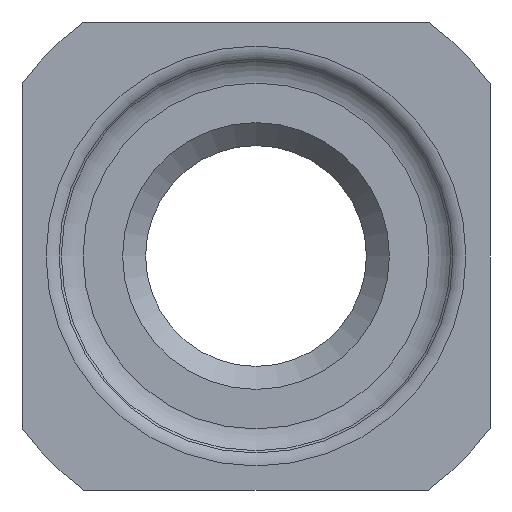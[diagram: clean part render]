
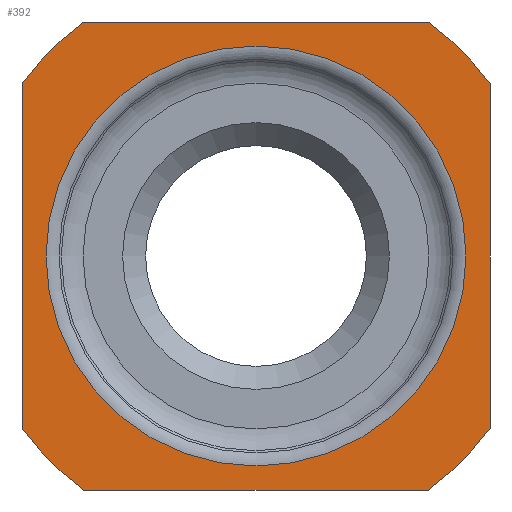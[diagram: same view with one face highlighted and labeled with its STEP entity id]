
A CAD part, front view. The second image highlights one B-rep face of the part: STEP entity #392.
In plain terms, the highlighted planar face has unit normal (0, -1, 0).
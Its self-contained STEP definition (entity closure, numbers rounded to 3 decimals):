
#27=FACE_BOUND('',#78,.T.);
#31=PLANE('',#454);
#51=FACE_OUTER_BOUND('',#77,.T.);
#77=EDGE_LOOP('',(#294,#295,#296,#297,#298,#299,#300,#301));
#78=EDGE_LOOP('',(#302));
#103=LINE('',#669,#121);
#104=LINE('',#673,#122);
#105=LINE('',#677,#123);
#106=LINE('',#680,#124);
#121=VECTOR('',#543,10.);
#122=VECTOR('',#546,10.);
#123=VECTOR('',#549,10.);
#124=VECTOR('',#552,10.);
#143=CIRCLE('',#448,5.707);
#148=CIRCLE('',#455,7.9);
#149=CIRCLE('',#456,7.9);
#150=CIRCLE('',#457,7.9);
#151=CIRCLE('',#458,7.9);
#175=VERTEX_POINT('',#653);
#179=VERTEX_POINT('',#665);
#180=VERTEX_POINT('',#666);
#181=VERTEX_POINT('',#668);
#182=VERTEX_POINT('',#670);
#183=VERTEX_POINT('',#672);
#184=VERTEX_POINT('',#674);
#185=VERTEX_POINT('',#676);
#186=VERTEX_POINT('',#678);
#216=EDGE_CURVE('',#175,#175,#143,.T.);
#222=EDGE_CURVE('',#179,#180,#148,.T.);
#223=EDGE_CURVE('',#180,#181,#103,.T.);
#224=EDGE_CURVE('',#181,#182,#149,.T.);
#225=EDGE_CURVE('',#182,#183,#104,.T.);
#226=EDGE_CURVE('',#183,#184,#150,.T.);
#227=EDGE_CURVE('',#184,#185,#105,.T.);
#228=EDGE_CURVE('',#185,#186,#151,.T.);
#229=EDGE_CURVE('',#186,#179,#106,.T.);
#294=ORIENTED_EDGE('',*,*,#222,.T.);
#295=ORIENTED_EDGE('',*,*,#223,.T.);
#296=ORIENTED_EDGE('',*,*,#224,.T.);
#297=ORIENTED_EDGE('',*,*,#225,.T.);
#298=ORIENTED_EDGE('',*,*,#226,.T.);
#299=ORIENTED_EDGE('',*,*,#227,.T.);
#300=ORIENTED_EDGE('',*,*,#228,.T.);
#301=ORIENTED_EDGE('',*,*,#229,.T.);
#302=ORIENTED_EDGE('',*,*,#216,.F.);
#392=ADVANCED_FACE('',(#51,#27),#31,.T.);
#448=AXIS2_PLACEMENT_3D('',#654,#526,#527);
#454=AXIS2_PLACEMENT_3D('',#664,#539,#540);
#455=AXIS2_PLACEMENT_3D('',#667,#541,#542);
#456=AXIS2_PLACEMENT_3D('',#671,#544,#545);
#457=AXIS2_PLACEMENT_3D('',#675,#547,#548);
#458=AXIS2_PLACEMENT_3D('',#679,#550,#551);
#526=DIRECTION('center_axis',(0.,-1.,0.));
#527=DIRECTION('ref_axis',(0.,0.,-1.));
#539=DIRECTION('center_axis',(0.,-1.,0.));
#540=DIRECTION('ref_axis',(0.,0.,-1.));
#541=DIRECTION('center_axis',(0.,-1.,0.));
#542=DIRECTION('ref_axis',(0.,0.,1.));
#543=DIRECTION('',(0.,0.,-1.));
#544=DIRECTION('center_axis',(0.,-1.,0.));
#545=DIRECTION('ref_axis',(0.,0.,1.));
#546=DIRECTION('',(1.,0.,0.));
#547=DIRECTION('center_axis',(0.,-1.,0.));
#548=DIRECTION('ref_axis',(0.,0.,1.));
#549=DIRECTION('',(0.,0.,1.));
#550=DIRECTION('center_axis',(0.,-1.,0.));
#551=DIRECTION('ref_axis',(0.,0.,1.));
#552=DIRECTION('',(-1.,0.,0.));
#653=CARTESIAN_POINT('',(0.,-5.,-5.707));
#654=CARTESIAN_POINT('Origin',(0.,-5.,0.));
#664=CARTESIAN_POINT('Origin',(0.,-5.,0.));
#665=CARTESIAN_POINT('',(-4.686,-5.,6.36));
#666=CARTESIAN_POINT('',(-6.36,-5.,4.686));
#667=CARTESIAN_POINT('Origin',(0.,-5.,0.));
#668=CARTESIAN_POINT('',(-6.36,-5.,-4.686));
#669=CARTESIAN_POINT('',(-6.36,-5.,-6.36));
#670=CARTESIAN_POINT('',(-4.686,-5.,-6.36));
#671=CARTESIAN_POINT('Origin',(0.,-5.,0.));
#672=CARTESIAN_POINT('',(4.686,-5.,-6.36));
#673=CARTESIAN_POINT('',(6.36,-5.,-6.36));
#674=CARTESIAN_POINT('',(6.36,-5.,-4.686));
#675=CARTESIAN_POINT('Origin',(0.,-5.,0.));
#676=CARTESIAN_POINT('',(6.36,-5.,4.686));
#677=CARTESIAN_POINT('',(6.36,-5.,6.36));
#678=CARTESIAN_POINT('',(4.686,-5.,6.36));
#679=CARTESIAN_POINT('Origin',(0.,-5.,0.));
#680=CARTESIAN_POINT('',(-6.36,-5.,6.36));
